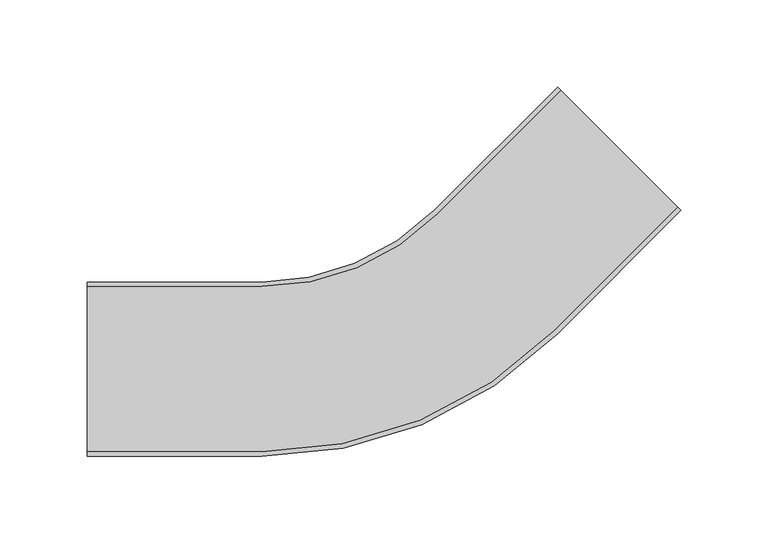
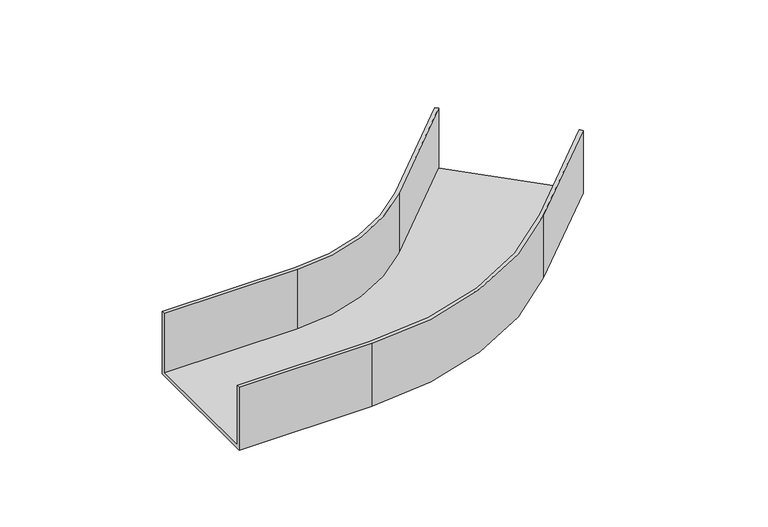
"""IFC4 building model written with IfcOpenShell, lengths in millimetres: cable carrier fitting geometry, BAKS_Elbow_KKZ : KKZC/KKZMC...H50."""

from ifc_helpers import new_model, si_unit, frame, origin, place, context, project, spatial, polyline, circle_curve, source, transform, mapped, element, save
from ifc_brep_helpers import plane_surface, cylinder_surface, revolved_surface, advanced_brep


def cable_carrier_fitting_02b181c7(model_context):
    return source(origin(), model_context, "Body", "AdvancedBrep", [
        advanced_brep(
        [(-178.7005769, -50.0, -25.0), (-178.7005769, -50.0, 25.0), (-178.7005769, -47.46, 25.0), (-178.7005769, -47.46, -22.46), (-178.7005769, 47.46, -22.46), (-178.7005769, 47.46, 25.0), (-178.7005769, 50.0, 25.0), (-178.7005769, 50.0, -25.0), (161.7157288, 91.0050506, -25.0), (91.0050506, 161.7157288, -25.0), (91.0050506, 161.7157288, 25.0), (92.8011019, 159.9196775, 25.0), (92.8011019, 159.9196775, -22.46), (159.9196775, 92.8011019, -22.46), (159.9196775, 92.8011019, 25.0), (161.7157288, 91.0050506, 25.0), (-78.7005769, -50.0, -25.0), (-78.7005769, -50.0, 25.0), (91.0050506, 20.2943725, 25.0), (89.2089994, 22.0904237, 25.0), (-78.7005769, -47.46, 25.0), (-78.7005769, -47.46, -22.46), (89.2089994, 22.0904237, -22.46), (22.0904237, 89.2089994, -22.46), (-78.7005769, 47.46, -22.46), (-78.7005769, 47.46, 25.0), (22.0904237, 89.2089994, 25.0), (20.2943725, 91.0050506, 25.0), (-78.7005769, 50.0, 25.0), (-78.7005769, 50.0, -25.0), (20.2943725, 91.0050506, -25.0), (91.0050506, 20.2943725, -25.0)],
        [
            (0, 1),
            (1, 2),
            (2, 3),
            (3, 4),
            (4, 5),
            (5, 6),
            (6, 7),
            (7, 0),
            (8, 9),
            (9, 10),
            (10, 11),
            (11, 12),
            (12, 13),
            (13, 14),
            (14, 15),
            (15, 8),
            (0, 16),
            (16, 17),
            (17, 1),
            (17, 18, circle_curve(frame((-78.7005769, 190.0, 25.0), z_axis=(0.0, 0.0, 1.0), x_axis=(0.0, -1.0, 0.0)), 240.0)),
            (18, 15),
            (14, 19),
            (19, 20, circle_curve(frame((-78.7005769, 190.0, 25.0), z_axis=(0.0, 0.0, -1.0), x_axis=(0.0, -1.0, 0.0)), 237.46)),
            (20, 2),
            (20, 21),
            (21, 3),
            (21, 22, circle_curve(frame((-78.7005769, 190.0, -22.46), z_axis=(0.0, 0.0, 1.0), x_axis=(0.0, -1.0, 0.0)), 237.46)),
            (22, 13),
            (12, 23),
            (23, 24, circle_curve(frame((-78.7005769, 190.0, -22.46), z_axis=(0.0, 0.0, -1.0), x_axis=(0.0, -1.0, 0.0)), 142.54)),
            (24, 4),
            (24, 25),
            (25, 5),
            (25, 26, circle_curve(frame((-78.7005769, 190.0, 25.0), z_axis=(0.0, 0.0, 1.0), x_axis=(0.0, -1.0, 0.0)), 142.54)),
            (26, 11),
            (10, 27),
            (27, 28, circle_curve(frame((-78.7005769, 190.0, 25.0), z_axis=(0.0, 0.0, -1.0), x_axis=(0.0, -1.0, 0.0)), 140.0)),
            (28, 6),
            (28, 29),
            (29, 7),
            (29, 30, circle_curve(frame((-78.7005769, 190.0, -25.0), z_axis=(0.0, 0.0, 1.0), x_axis=(0.0, -1.0, 0.0)), 140.0)),
            (30, 9),
            (8, 31),
            (31, 16, circle_curve(frame((-78.7005769, 190.0, -25.0), z_axis=(0.0, 0.0, -1.0), x_axis=(0.0, -1.0, 0.0)), 240.0)),
            (31, 18),
            (19, 22),
            (23, 26),
            (27, 30),
        ],
        [
            plane_surface(frame((-178.7005769, 0.0, 0.0), z_axis=(-1.0, 0.0, 0.0), x_axis=(0.0, 0.0, 1.0))),
            plane_surface(frame((126.3603897, 126.3603897, 0.0), z_axis=(0.7071067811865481, 0.7071067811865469, 0.0), x_axis=(0.0, 0.0, 1.0))),
            plane_surface(frame((-178.7005769, -50.0, -25.0), z_axis=(0.0, -1.0, 0.0), x_axis=(1.0, 0.0, 0.0))),
            plane_surface(frame((-178.7005769, -50.0, 25.0), z_axis=(0.0, 0.0, 1.0), x_axis=(1.0, 0.0, 0.0))),
            plane_surface(frame((-178.7005769, -47.46, 25.0), z_axis=(0.0, 1.0, 0.0), x_axis=(1.0, 0.0, 0.0))),
            plane_surface(frame((-178.7005769, -47.46, -22.46), z_axis=(0.0, 0.0, 1.0), x_axis=(1.0, 0.0, 0.0))),
            plane_surface(frame((-178.7005769, 47.46, -22.46), z_axis=(0.0, -1.0, 0.0), x_axis=(1.0, 0.0, 0.0))),
            plane_surface(frame((-178.7005769, 47.46, 25.0), z_axis=(0.0, 0.0, 1.0), x_axis=(1.0, 0.0, 0.0))),
            plane_surface(frame((-178.7005769, 50.0, 25.0), z_axis=(0.0, 1.0, 0.0), x_axis=(1.0, 0.0, 0.0))),
            plane_surface(frame((-178.7005769, 50.0, -25.0), z_axis=(0.0, 0.0, -1.0), x_axis=(1.0, 0.0, 0.0))),
            cylinder_surface(frame((-78.7005769, 190.0, 0.0), z_axis=(0.0, 0.0, 1.0), x_axis=(0.0, -1.0, 0.0)), 240.0),
            revolved_surface(polyline([(-78.7005769, -47.46000000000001, 25.0), (-78.7005769, -47.46000000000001, -22.46)]), (-78.7005769, 190.0, 0.0), (0.0, 0.0, 1.0)),
            cylinder_surface(frame((-78.7005769, 190.0, 0.0), z_axis=(0.0, 0.0, 1.0), x_axis=(0.0, -1.0, 0.0)), 142.54),
            revolved_surface(polyline([(-78.7005769, 50.0, 25.0), (-78.7005769, 50.0, -25.0)]), (-78.7005769, 190.0, 0.0), (0.0, 0.0, 1.0)),
            plane_surface(frame((91.0050506, 20.2943725, -25.0), z_axis=(0.7071067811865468, -0.7071067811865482, 0.0), x_axis=(0.7071067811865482, 0.7071067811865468, 0.0))),
            plane_surface(frame((89.2089994, 22.0904237, 25.0), z_axis=(-0.7071067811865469, 0.7071067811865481, 0.0), x_axis=(0.7071067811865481, 0.7071067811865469, 0.0))),
            plane_surface(frame((22.0904237, 89.2089994, -22.46), z_axis=(0.707106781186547, -0.707106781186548, 0.0), x_axis=(0.707106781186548, 0.707106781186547, 0.0))),
            plane_surface(frame((20.2943725, 91.0050506, 25.0), z_axis=(-0.707106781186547, 0.7071067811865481, 0.0), x_axis=(0.7071067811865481, 0.707106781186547, 0.0))),
        ],
        [
            (0, [[1, 2, 3, 4, 5, 6, 7, 8]]),
            (1, [[9, 10, 11, 12, 13, 14, 15, 16]]),
            (2, [[-1, 17, 18, 19]]),
            (3, [[-2, -19, 20, 21, -15, 22, 23, 24]]),
            (4, [[-3, -24, 25, 26]]),
            (5, [[-4, -26, 27, 28, -13, 29, 30, 31]]),
            (6, [[-5, -31, 32, 33]]),
            (7, [[-6, -33, 34, 35, -11, 36, 37, 38]]),
            (8, [[-7, -38, 39, 40]]),
            (9, [[-8, -40, 41, 42, -9, 43, 44, -17]]),
            (10, [[-20, -18, -44, 45]]),
            (11, [[-27, -25, -23, 46]]),
            (12, [[-34, -32, -30, 47]]),
            (13, [[-41, -39, -37, 48]]),
            (14, [[-45, -43, -16, -21]]),
            (15, [[-46, -22, -14, -28]]),
            (16, [[-47, -29, -12, -35]]),
            (17, [[-48, -36, -10, -42]]),
        ],
    ),
    ])


if __name__ == "__main__":
    model = new_model("IFC4")
    model_context = context("Model", 3, world=origin())
    ifc_project = project(units=[si_unit("LENGTHUNIT", "METRE", prefix="MILLI")], contexts=[model_context])
    site = spatial("IfcSite", under=ifc_project)
    building = spatial("IfcBuilding", under=site)
    placement = place(None, origin())
    cable_carrier_fitting_shape = cable_carrier_fitting_02b181c7(model_context)
    element("IfcCableCarrierFitting", 1, ObjectType="BAKS_Elbow_KKZ : KKZC/KKZMC...H50", at=placement, inside=building, context=model_context, shape_type="MappedRepresentation", body=[
        mapped(cable_carrier_fitting_shape, transform((0.0, 0.0, 0.0), x_axis=(1.0, 0.0, 0.0), y_axis=(0.0, 1.0, 0.0), z_axis=(0.0, 0.0, 1.0))),
    ])
    save(model, "model.ifc")
